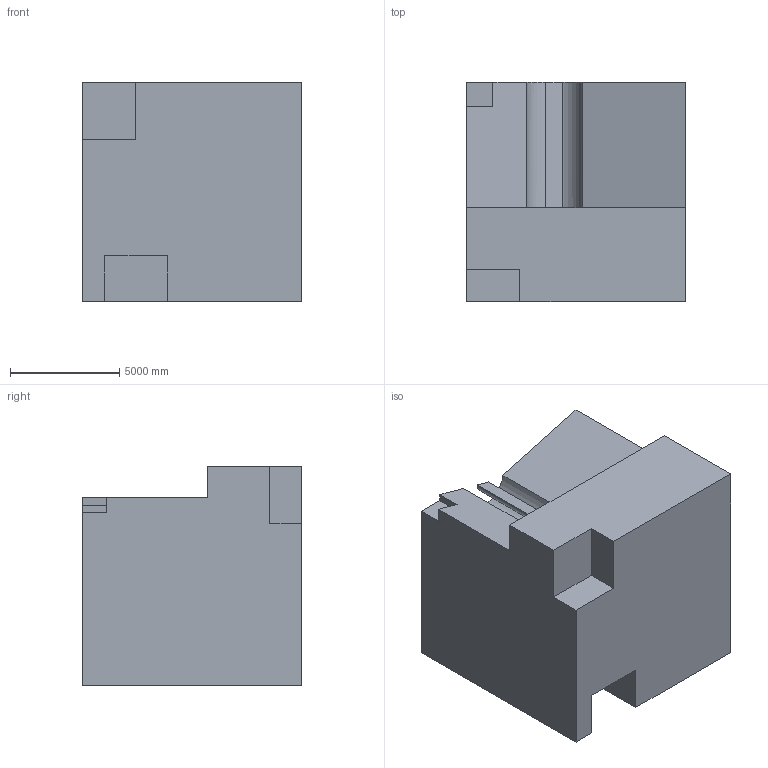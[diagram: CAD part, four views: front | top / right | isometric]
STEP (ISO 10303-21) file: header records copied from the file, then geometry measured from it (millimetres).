
FILE_DESCRIPTION (( 'STEP AP203' ), '1' );
FILE_NAME ('481.STEP', '2022-07-29T11:27:23', ( 'user' ), ( '' ), 'SwSTEP 2.0', 'SolidWorks 2021', '' );
FILE_SCHEMA (( 'CONFIG_CONTROL_DESIGN' ));
Length unit declared in the file: centimetre
Products named in the file (1): 481
Bounding box: 10000 x 10000 x 10000 mm (x, y, z)
Volume: 787383827822.2 mm3; surface area: 676488639.7 mm2
Topology: 1 solids, 1 shells, 27 faces, 72 edges, 48 vertices
Faces by surface type: plane 23, cylinder 4
Entity records: 915 total; most frequent: CARTESIAN_POINT 148, ORIENTED_EDGE 144, DIRECTION 140, EDGE_CURVE 72, VECTOR 60, LINE 60, VERTEX_POINT 48, AXIS2_PLACEMENT_3D 40
